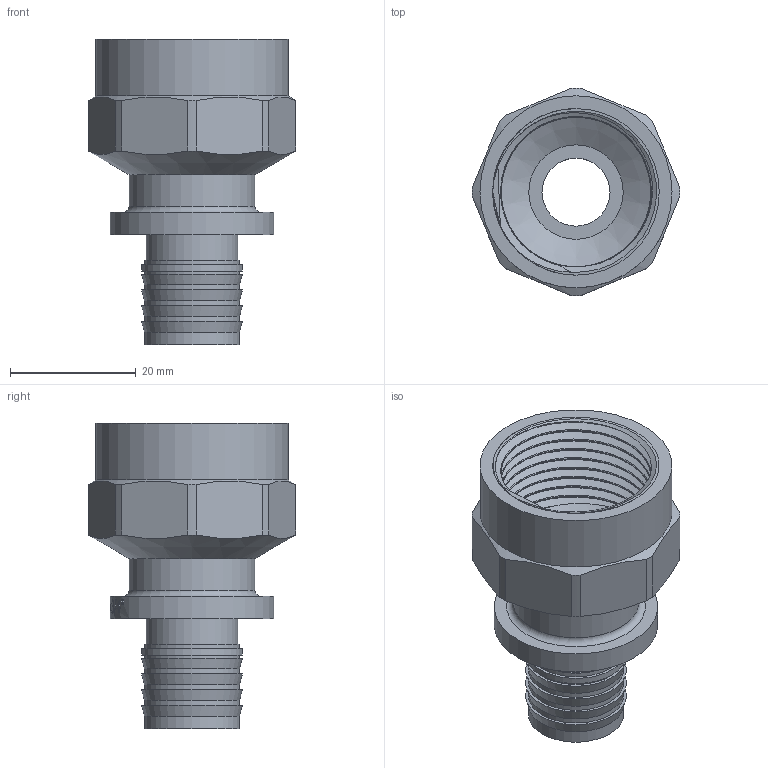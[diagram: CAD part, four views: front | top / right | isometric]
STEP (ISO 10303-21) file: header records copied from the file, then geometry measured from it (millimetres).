
FILE_DESCRIPTION(/* description */ (''),/* implementation_level */ '2;1');
FILE_NAME(/* name */ 'C:\Users\Doom\Desktop\Фадотех\Натяжка\FD-SFM23NEW 14.04.2020\FADO-SFM23NEW 14.04.2020.stp',/* time_stamp */ '2022-07-24T11:59:13+03:00',/* author */ ('Doom'),/* organization */ (''),/* preprocessor_version */ 'ST-DEVELOPER v18',/* originating_system */ 'Autodesk Inventor 2020',/* authorisation */ '');
FILE_SCHEMA (('AUTOMOTIVE_DESIGN { 1 0 10303 214 3 1 1 }'));
Length unit declared in the file: millimetre
Products named in the file (1): FADO-SFM23NEW 14.04.2020
Bounding box: 33 x 33 x 48.5 mm (x, y, z)
Volume: 10371.6 mm3; surface area: 11502.7 mm2
Topology: 2 solids, 2 shells, 195 faces, 540 edges, 369 vertices
Faces by surface type: bspline 73, plane 67, cylinder 45, cone 9, torus 1
Full cylindrical faces by diameter (mm): 10.8 x1, 14.5 x1, 15 x1, 15.1 x6, 16 x1, 20 x1, 23.75 x8, 26 x1, 26.44 x2, 30.5 x1
Entity records: 12552 total; most frequent: CARTESIAN_POINT 7953, ORIENTED_EDGE 1072, DIRECTION 744, EDGE_CURVE 536, VERTEX_POINT 367, AXIS2_PLACEMENT_3D 274, EDGE_LOOP 221, LINE 196
